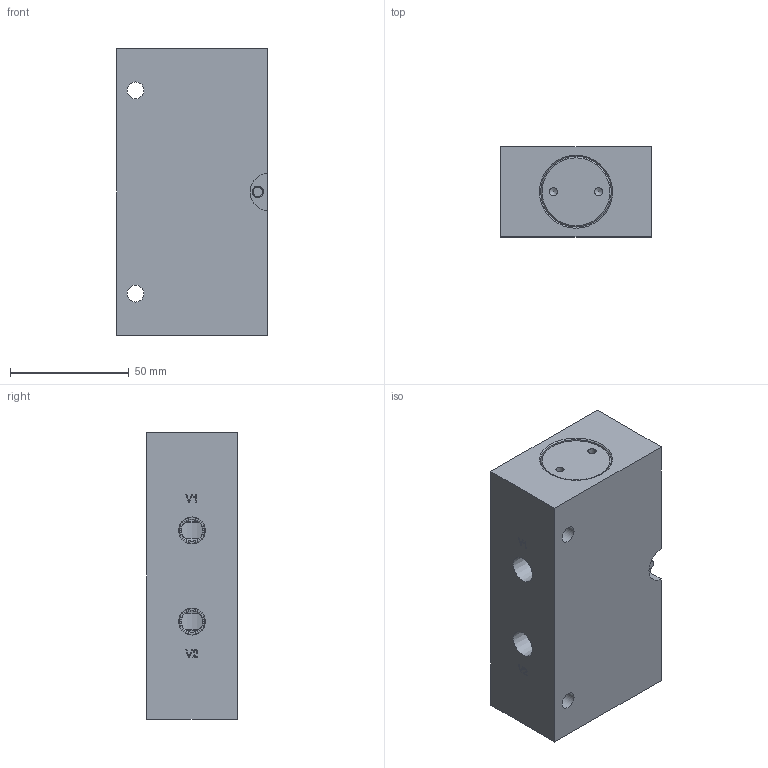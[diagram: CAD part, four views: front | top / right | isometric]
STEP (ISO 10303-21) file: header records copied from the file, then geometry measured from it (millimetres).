
FILE_DESCRIPTION(/* description */ (''),/* implementation_level */ '2;1');
FILE_NAME(/* name */ 'L:\ALADCO\Advertising\3D Content\Valves\Step Files - 2014-11-19 thru Present\60250X.stp',/* time_stamp */ '2014-11-20T08:52:53-06:00',/* author */ ('dmatz'),/* organization */ ('Aladdin Eng. & Manf. Inc.'),/* preprocessor_version */ 'ST-DEVELOPER v15.2',/* originating_system */ 'Autodesk Inventor 2014',/* authorisation */ '0 in^3');
FILE_SCHEMA (('AUTOMOTIVE_DESIGN { 1 0 10303 214 3 1 1 }'));
Length unit declared in the file: inch
Products named in the file (8): 620053; 620025; 620047; 620046; 620050; 620057; 710-073SS; 602501
Bounding box: 63.5 x 38.1 x 120.65 mm (x, y, z)
Volume: 231678.1 mm3; surface area: 59674.1 mm2
Topology: 10 solids, 10 shells, 393 faces, 980 edges, 636 vertices
Faces by surface type: plane 167, cylinder 105, bspline 66, cone 48, torus 7
Full cylindrical faces by diameter (mm): 1.575 x2, 1.587 x2, 2.54 x1, 2.642 x4, 2.794 x2, 3.175 x2, 3.2 x2, 3.454 x4, 3.505 x4, 3.81 x8, 4.013 x1, 4.648 x1, 4.762 x1, 5.563 x2, 5.74 x4, 6.35 x4, 6.477 x2, 7.144 x2, 8.992 x4, 10.719 x4, 13.081 x2, 16.129 x2, 21.107 x2, 25.4 x1, 26.035 x2, 28.524 x4, 28.575 x4, 29.591 x2, 29.766 x2, 31.75 x2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
Entity records: 9793 total; most frequent: CARTESIAN_POINT 3105, ORIENTED_EDGE 1222, DIRECTION 1164, EDGE_CURVE 611, EDGE_LOOP 474, VERTEX_POINT 451, AXIS2_PLACEMENT_3D 448, ADVANCED_FACE 300
